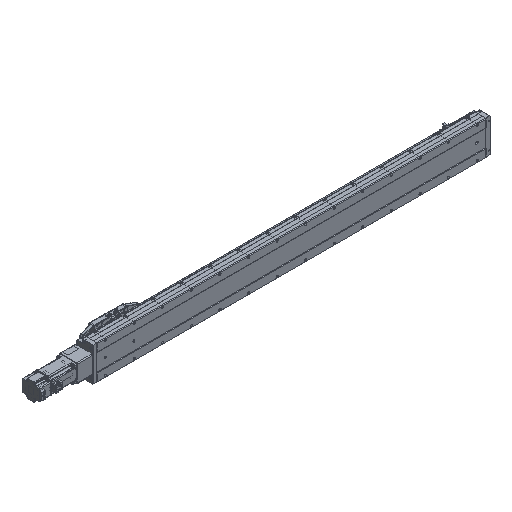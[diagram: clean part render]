
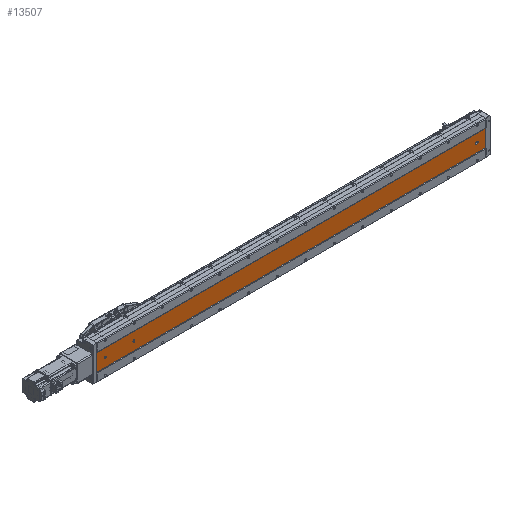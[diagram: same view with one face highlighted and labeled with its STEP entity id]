
A CAD part, isometric view. The second image highlights one B-rep face of the part: STEP entity #13507.
In plain terms, the highlighted planar face has unit normal (0, -1, 0).
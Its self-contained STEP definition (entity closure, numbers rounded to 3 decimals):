
#811 = EDGE_LOOP ( 'NONE', ( #51085, #70986, #91855, #70866, #52281 ) ) ;
#946 = CARTESIAN_POINT ( 'NONE',  ( -36.392, -52.848, 32. ) ) ;
#957 = VERTEX_POINT ( 'NONE', #55729 ) ;
#1918 = DIRECTION ( 'NONE',  ( 0., 0., -1. ) ) ;
#2176 = VERTEX_POINT ( 'NONE', #12537 ) ;
#2536 = VECTOR ( 'NONE', #10165, 1000. ) ;
#3057 = DIRECTION ( 'NONE',  ( 0., 1., 0. ) ) ;
#4180 = CARTESIAN_POINT ( 'NONE',  ( -39.892, -52.848, 30. ) ) ;
#4773 = CARTESIAN_POINT ( 'NONE',  ( -39.892, -52.848, 1331. ) ) ;
#4978 = CIRCLE ( 'NONE', #13051, 3.5 ) ;
#5183 = ORIENTED_EDGE ( 'NONE', *, *, #44241, .T. ) ;
#5657 = DIRECTION ( 'NONE',  ( 0., 0., 1. ) ) ;
#6623 = PLANE ( 'NONE',  #99015 ) ;
#6827 = DIRECTION ( 'NONE',  ( 0., 0., 1. ) ) ;
#7220 = LINE ( 'NONE', #68092, #24035 ) ;
#7280 = EDGE_CURVE ( 'NONE', #48193, #67844, #94809, .T. ) ;
#8234 = EDGE_LOOP ( 'NONE', ( #80023, #84123 ) ) ;
#10165 = DIRECTION ( 'NONE',  ( 0., 0., 1. ) ) ;
#10801 = DIRECTION ( 'NONE',  ( 0., 1., 0. ) ) ;
#12537 = CARTESIAN_POINT ( 'NONE',  ( -36.392, -52.848, 30. ) ) ;
#13051 = AXIS2_PLACEMENT_3D ( 'NONE', #4180, #19547, #27298 ) ;
#13297 = CARTESIAN_POINT ( 'NONE',  ( -39.892, -52.848, 32. ) ) ;
#13507 = ADVANCED_FACE ( 'NONE', ( #23319, #78398, #75987, #50825 ), #6623, .F. ) ;
#13654 = CARTESIAN_POINT ( 'NONE',  ( -39.892, -52.848, 1231. ) ) ;
#13723 = CARTESIAN_POINT ( 'NONE',  ( -43.392, -52.848, 30. ) ) ;
#14778 = CARTESIAN_POINT ( 'NONE',  ( -36.392, -52.848, 1361. ) ) ;
#14815 = AXIS2_PLACEMENT_3D ( 'NONE', #4773, #10801, #64333 ) ;
#15709 = CARTESIAN_POINT ( 'NONE',  ( -69.892, -52.848, 1361. ) ) ;
#16703 = DIRECTION ( 'NONE',  ( 1., 0., 0. ) ) ;
#18552 = EDGE_CURVE ( 'NONE', #33667, #27994, #19303, .T. ) ;
#19303 = LINE ( 'NONE', #48644, #2536 ) ;
#19547 = DIRECTION ( 'NONE',  ( 0., 1., 0. ) ) ;
#20379 = AXIS2_PLACEMENT_3D ( 'NONE', #81961, #3057, #43861 ) ;
#21667 = DIRECTION ( 'NONE',  ( 0., 0., 1. ) ) ;
#22277 = DIRECTION ( 'NONE',  ( 0., 0., -1. ) ) ;
#23319 = FACE_BOUND ( 'NONE', #811, .T. ) ;
#23645 = CARTESIAN_POINT ( 'NONE',  ( -39.892, -52.848, 26.5 ) ) ;
#24035 = VECTOR ( 'NONE', #22277, 1000. ) ;
#24739 = EDGE_CURVE ( 'NONE', #56151, #56368, #88628, .T. ) ;
#26062 = CARTESIAN_POINT ( 'NONE',  ( -39.892, -52.848, 1334.5 ) ) ;
#27298 = DIRECTION ( 'NONE',  ( 0., 0., 1. ) ) ;
#27376 = ORIENTED_EDGE ( 'NONE', *, *, #75994, .T. ) ;
#27994 = VERTEX_POINT ( 'NONE', #49839 ) ;
#29186 = CARTESIAN_POINT ( 'NONE',  ( -39.892, -52.848, 1327.5 ) ) ;
#29877 = CIRCLE ( 'NONE', #20379, 3.5 ) ;
#30406 = CIRCLE ( 'NONE', #71735, 3.5 ) ;
#31521 = VERTEX_POINT ( 'NONE', #26062 ) ;
#33381 = CARTESIAN_POINT ( 'NONE',  ( -9.892, -52.848, 1361. ) ) ;
#33667 = VERTEX_POINT ( 'NONE', #13723 ) ;
#35099 = DIRECTION ( 'NONE',  ( 0., 1., 0. ) ) ;
#37449 = DIRECTION ( 'NONE',  ( 0., 1., 0. ) ) ;
#37632 = CARTESIAN_POINT ( 'NONE',  ( -39.892, -52.848, 30. ) ) ;
#38956 = VERTEX_POINT ( 'NONE', #946 ) ;
#39086 = EDGE_LOOP ( 'NONE', ( #27376, #92056, #90220, #5183 ) ) ;
#40351 = CIRCLE ( 'NONE', #67561, 3.5 ) ;
#43861 = DIRECTION ( 'NONE',  ( 0., 0., 1. ) ) ;
#44122 = DIRECTION ( 'NONE',  ( 0., 1., 0. ) ) ;
#44241 = EDGE_CURVE ( 'NONE', #56151, #957, #7220, .T. ) ;
#47476 = LINE ( 'NONE', #14778, #52242 ) ;
#48193 = VERTEX_POINT ( 'NONE', #78984 ) ;
#48644 = CARTESIAN_POINT ( 'NONE',  ( -43.392, -52.848, 1361. ) ) ;
#49021 = VERTEX_POINT ( 'NONE', #23645 ) ;
#49839 = CARTESIAN_POINT ( 'NONE',  ( -43.392, -52.848, 32. ) ) ;
#50825 = FACE_OUTER_BOUND ( 'NONE', #39086, .T. ) ;
#51085 = ORIENTED_EDGE ( 'NONE', *, *, #18552, .T. ) ;
#52242 = VECTOR ( 'NONE', #84684, 1000. ) ;
#52281 = ORIENTED_EDGE ( 'NONE', *, *, #72418, .T. ) ;
#52839 = EDGE_LOOP ( 'NONE', ( #78082, #55968 ) ) ;
#53107 = CARTESIAN_POINT ( 'NONE',  ( -69.892, -52.848, 1361. ) ) ;
#53734 = CIRCLE ( 'NONE', #77555, 3.5 ) ;
#55729 = CARTESIAN_POINT ( 'NONE',  ( -69.892, -52.848, 0. ) ) ;
#55968 = ORIENTED_EDGE ( 'NONE', *, *, #68238, .T. ) ;
#56151 = VERTEX_POINT ( 'NONE', #68468 ) ;
#56368 = VERTEX_POINT ( 'NONE', #33381 ) ;
#58910 = CIRCLE ( 'NONE', #14815, 3.5 ) ;
#59514 = CARTESIAN_POINT ( 'NONE',  ( -69.892, -52.848, 0. ) ) ;
#60476 = EDGE_CURVE ( 'NONE', #27994, #38956, #53734, .T. ) ;
#60616 = DIRECTION ( 'NONE',  ( 0., 1., 0. ) ) ;
#62666 = LINE ( 'NONE', #59514, #97328 ) ;
#64018 = EDGE_CURVE ( 'NONE', #31521, #65321, #40351, .T. ) ;
#64333 = DIRECTION ( 'NONE',  ( 0., 0., 1. ) ) ;
#65321 = VERTEX_POINT ( 'NONE', #29186 ) ;
#66027 = EDGE_CURVE ( 'NONE', #56368, #68642, #92370, .T. ) ;
#67561 = AXIS2_PLACEMENT_3D ( 'NONE', #80533, #35099, #88525 ) ;
#67844 = VERTEX_POINT ( 'NONE', #80392 ) ;
#68092 = CARTESIAN_POINT ( 'NONE',  ( -69.892, -52.848, 1361. ) ) ;
#68238 = EDGE_CURVE ( 'NONE', #67844, #48193, #29877, .T. ) ;
#68468 = CARTESIAN_POINT ( 'NONE',  ( -69.892, -52.848, 1361. ) ) ;
#68642 = VERTEX_POINT ( 'NONE', #93562 ) ;
#70866 = ORIENTED_EDGE ( 'NONE', *, *, #83214, .T. ) ;
#70986 = ORIENTED_EDGE ( 'NONE', *, *, #60476, .T. ) ;
#71735 = AXIS2_PLACEMENT_3D ( 'NONE', #37632, #60616, #6827 ) ;
#72102 = VECTOR ( 'NONE', #1918, 1000. ) ;
#72418 = EDGE_CURVE ( 'NONE', #49021, #33667, #4978, .T. ) ;
#74642 = DIRECTION ( 'NONE',  ( 1., 0., 0. ) ) ;
#75987 = FACE_BOUND ( 'NONE', #8234, .T. ) ;
#75994 = EDGE_CURVE ( 'NONE', #957, #68642, #62666, .T. ) ;
#77555 = AXIS2_PLACEMENT_3D ( 'NONE', #13297, #44122, #5657 ) ;
#78082 = ORIENTED_EDGE ( 'NONE', *, *, #7280, .T. ) ;
#78398 = FACE_BOUND ( 'NONE', #52839, .T. ) ;
#78984 = CARTESIAN_POINT ( 'NONE',  ( -39.892, -52.848, 1227.5 ) ) ;
#80023 = ORIENTED_EDGE ( 'NONE', *, *, #94803, .T. ) ;
#80392 = CARTESIAN_POINT ( 'NONE',  ( -39.892, -52.848, 1234.5 ) ) ;
#80533 = CARTESIAN_POINT ( 'NONE',  ( -39.892, -52.848, 1331. ) ) ;
#81961 = CARTESIAN_POINT ( 'NONE',  ( -39.892, -52.848, 1231. ) ) ;
#82569 = DIRECTION ( 'NONE',  ( 0., 0., 1. ) ) ;
#83214 = EDGE_CURVE ( 'NONE', #2176, #49021, #30406, .T. ) ;
#83806 = AXIS2_PLACEMENT_3D ( 'NONE', #13654, #98236, #82569 ) ;
#84123 = ORIENTED_EDGE ( 'NONE', *, *, #64018, .T. ) ;
#84684 = DIRECTION ( 'NONE',  ( 0., 0., -1. ) ) ;
#88525 = DIRECTION ( 'NONE',  ( 0., 0., 1. ) ) ;
#88628 = LINE ( 'NONE', #15709, #94553 ) ;
#90220 = ORIENTED_EDGE ( 'NONE', *, *, #24739, .F. ) ;
#91855 = ORIENTED_EDGE ( 'NONE', *, *, #97938, .T. ) ;
#92056 = ORIENTED_EDGE ( 'NONE', *, *, #66027, .F. ) ;
#92370 = LINE ( 'NONE', #93469, #72102 ) ;
#93469 = CARTESIAN_POINT ( 'NONE',  ( -9.892, -52.848, 1361. ) ) ;
#93562 = CARTESIAN_POINT ( 'NONE',  ( -9.892, -52.848, 0. ) ) ;
#94553 = VECTOR ( 'NONE', #16703, 1000. ) ;
#94803 = EDGE_CURVE ( 'NONE', #65321, #31521, #58910, .T. ) ;
#94809 = CIRCLE ( 'NONE', #83806, 3.5 ) ;
#97328 = VECTOR ( 'NONE', #74642, 1000. ) ;
#97938 = EDGE_CURVE ( 'NONE', #38956, #2176, #47476, .T. ) ;
#98236 = DIRECTION ( 'NONE',  ( 0., 1., 0. ) ) ;
#99015 = AXIS2_PLACEMENT_3D ( 'NONE', #53107, #37449, #21667 ) ;
